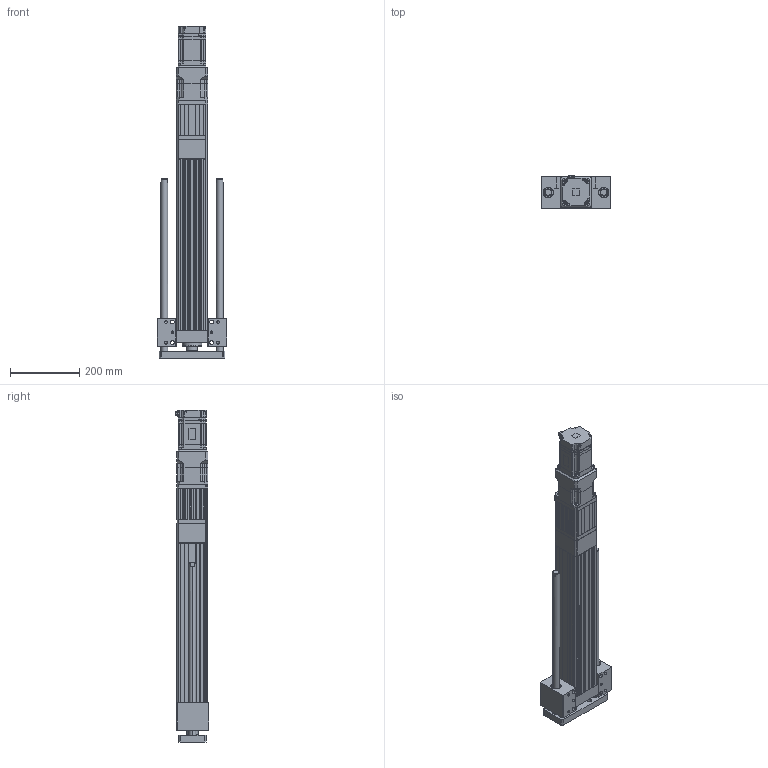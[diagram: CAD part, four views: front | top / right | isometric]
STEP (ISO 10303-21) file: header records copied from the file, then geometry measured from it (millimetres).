
FILE_DESCRIPTION (( 'STEP AP203' ), '1' );
FILE_NAME ('ANS090H-HS350-05(10)(25)-W75G05.STEP', '2019-03-18T03:28:53', ( 'user' ), ( '' ), 'SwSTEP 2.0', 'SolidWorks 2013', '' );
FILE_SCHEMA (( 'CONFIG_CONTROL_DESIGN' ));
Length unit declared in the file: millimetre
Products named in the file (5): ANS090H HS350 VER2; ANS090 ROD ST350-H; SGMJV_08A_A21; AB090-005-S1-P2[YASKAWA SGMJV08A]; ANS090H-HS350-05(10)(25)-W75G05
Assembly tree (4 placements, depth 2):
  ANS090H-HS350-05(10)(25)-W75G05
    ANS090H HS350 VER2
    ANS090 ROD ST350-H
    SGMJV_08A_A21
    AB090-005-S1-P2[YASKAWA SGMJV08A]
Bounding box: 200 x 95.8 x 958.1 mm (x, y, z)
Volume: 5010435.3 mm3; surface area: 897165.3 mm2
Topology: 3 solids, 10 shells, 1749 faces, 4692 edges, 3042 vertices
Faces by surface type: plane 1030, cylinder 559, cone 148, bspline 12
Entity records: 55250 total; most frequent: CARTESIAN_POINT 10492, ORIENTED_EDGE 9248, DIRECTION 9165, EDGE_CURVE 4668, VECTOR 3271, LINE 3271, VERTEX_POINT 3042, AXIS2_PLACEMENT_3D 2947
